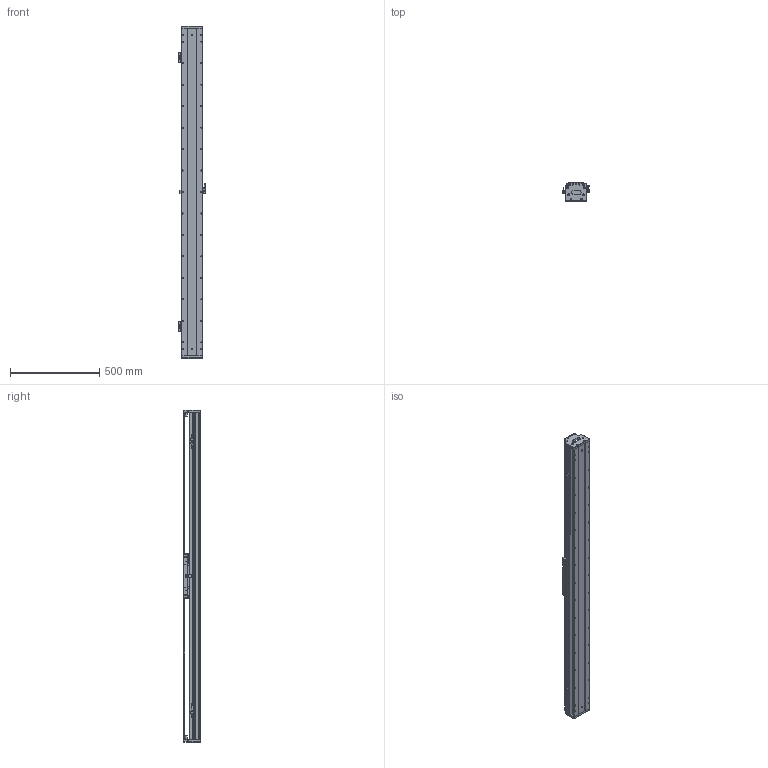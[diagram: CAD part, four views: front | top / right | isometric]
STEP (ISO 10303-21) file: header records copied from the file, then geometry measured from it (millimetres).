
FILE_DESCRIPTION (( 'STEP AP203' ), '1' );
FILE_NAME ('DKW119-C3-W060(T1500-L005-0.2).STEP', '2021-09-02T01:25:01', ( '微软用户' ), ( '微软中国' ), 'SwSTEP 2.0', 'SolidWorks 2018', '' );
FILE_SCHEMA (( 'CONFIG_CONTROL_DESIGN' ));
Length unit declared in the file: millimetre
Products named in the file (23): 嫖萇羲壽蚾饜极; 06652-0001-004-00 DKW120嶺輸菜輸; 嫖萇羲壽蚾饜极A; DKW119-C3-W060(T1500-L005-0.2); 12018-0001-002-00 詩湍; 12018-0001-001-00 菁釱; DKW-SG-GYP-H-00 嫖萇覜茼え; 砎蝶猾沭; MSB15-DG-U; RUS嫖掑喜; 12160-0000-003-00 DKW120詩湍嶺輸; DKW119-RU-DTJ-00 RU2黍杅芛盓殤; Ru2; 12160-0000-004-00  DKW120詩湍揤輸; 萇儂堤盄 ^DKW119-C3-W060(T1500-L005-0.2); RUS嫖掑郪璃; DKW119 单轴模组-拉钢带组件; CKMA01-W060-TRLxxx; CKM03-W060_00; pm-y65; DKW-HXJ-JY-00 遣喳砎蝶; 10980-0001-003-00 嫖萇羲壽嘐隅釱; 11062-0001-004-00 DKW119傷啣
Assembly tree (36 placements, depth 3):
  DKW119-C3-W060(T1500-L005-0.2)
    12018-0001-001-00 菁釱
    MSB15-DG-U  x2
    DKW119-RU-DTJ-00 RU2黍杅芛盓殤
    萇儂堤盄 ^DKW119-C3-W060(T1500-L005-0.2)
    CKMA01-W060-TRLxxx
    DKW119 单轴模组-拉钢带组件
      DKW-HXJ-JY-00 遣喳砎蝶  x4
      11062-0001-004-00 DKW119傷啣  x2
      06652-0001-004-00 DKW120嶺輸菜輸  x4
      12018-0001-002-00 詩湍
      砎蝶猾沭  x2
      12160-0000-003-00 DKW120詩湍嶺輸  x2
      12160-0000-004-00  DKW120詩湍揤輸  x2
    嫖萇羲壽蚾饜极
      pm-y65
      10980-0001-003-00 嫖萇羲壽嘐隅釱
    嫖萇羲壽蚾饜极A
      pm-y65  x2
      10980-0001-003-00 嫖萇羲壽嘐隅釱
    DKW-SG-GYP-H-00 嫖萇覜茼え
    RUS嫖掑郪璃
      RUS嫖掑喜
      Ru2
    CKM03-W060_00
Bounding box: 154.3 x 99 x 1856 mm (x, y, z)
Volume: 8270720.5 mm3; surface area: 2661918.1 mm2
Topology: 42 solids, 91 shells, 4302 faces, 11481 edges, 7322 vertices
Faces by surface type: plane 2138, cylinder 1499, cone 418, bspline 247
Entity records: 130089 total; most frequent: CARTESIAN_POINT 43520, ORIENTED_EDGE 17435, DIRECTION 16820, EDGE_CURVE 8758, VERTEX_POINT 5749, AXIS2_PLACEMENT_3D 5718, VECTOR 5384, LINE 5384
